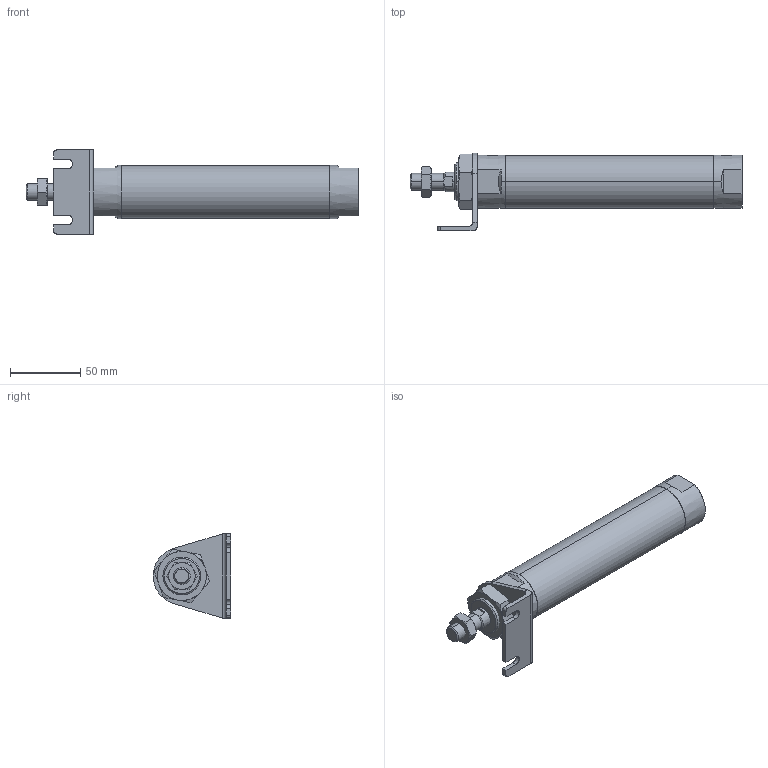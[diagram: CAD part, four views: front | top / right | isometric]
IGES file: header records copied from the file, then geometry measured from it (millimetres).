
Start section: SolidWorks IGES file using analytic representation for surfaces
Global section: file name: C:\Users\Toshiba\Desktop\JGND2-32-100-L.IGS; native system: SolidWorks 2014; preprocessor: SolidWorks 2014; author: Toshiba; date: 160804.105206; units: millimetre
Bounding box: 237 x 55.5 x 60 mm (x, y, z)
Surface area: 40122.5 mm2 (no closed solid volume)
Topology: 0 solids, 0 shells, 116 faces, 1918 edges, 1914 vertices
Faces by surface type: bspline 71, revolution 45
